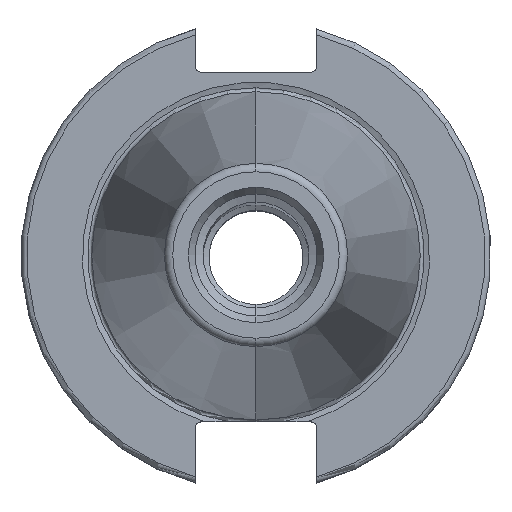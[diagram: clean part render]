
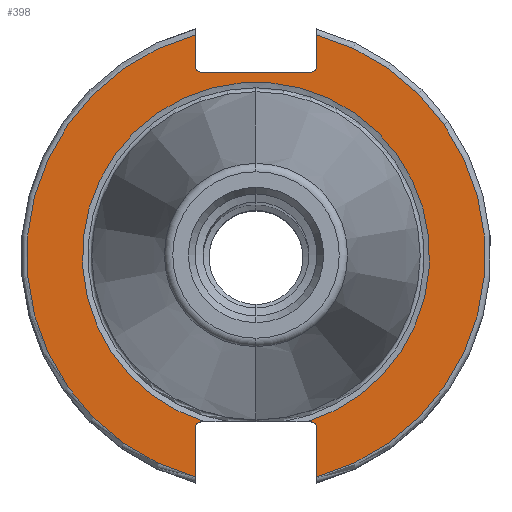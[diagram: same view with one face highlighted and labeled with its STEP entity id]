
A CAD part, top view. The second image highlights one B-rep face of the part: STEP entity #398.
In plain terms, the highlighted planar face has unit normal (0, 0, 1).
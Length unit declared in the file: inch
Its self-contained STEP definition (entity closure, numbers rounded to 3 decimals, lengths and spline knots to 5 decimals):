
#25 = CARTESIAN_POINT ( 'NONE',  ( 0.27356, -0.8825, -0.125 ) ) ;
#44 = VERTEX_POINT ( 'NONE', #318 ) ;
#47 = VERTEX_POINT ( 'NONE', #2500 ) ;
#81 = CARTESIAN_POINT ( 'NONE',  ( -0.3225, -0.9125, -0.125 ) ) ;
#99 = DIRECTION ( 'NONE',  ( 0., 1., 0. ) ) ;
#158 = VERTEX_POINT ( 'NONE', #345 ) ;
#174 = EDGE_CURVE ( 'NONE', #1312, #507, #700, .T. ) ;
#206 = DIRECTION ( 'NONE',  ( 0., -1., 0. ) ) ;
#215 = CARTESIAN_POINT ( 'NONE',  ( -0.2925, 1.0075, -0.125 ) ) ;
#288 = LINE ( 'NONE', #2164, #3453 ) ;
#294 = CARTESIAN_POINT ( 'NONE',  ( -0.3225, -1.1766, -0.125 ) ) ;
#318 = CARTESIAN_POINT ( 'NONE',  ( -0.2925, 0.9775, -0.125 ) ) ;
#338 = CARTESIAN_POINT ( 'NONE',  ( 0.2925, -0.8825, -0.125 ) ) ;
#345 = CARTESIAN_POINT ( 'NONE',  ( 0.3225, 1.1766, -0.125 ) ) ;
#367 = CARTESIAN_POINT ( 'NONE',  ( 0.2925, -0.9125, -0.125 ) ) ;
#373 = VECTOR ( 'NONE', #2525, 39.37008 ) ;
#398 = ADVANCED_FACE ( 'NONE', ( #3677 ), #527, .T. ) ;
#441 = CARTESIAN_POINT ( 'NONE',  ( 0.3225, 0., -0.125 ) ) ;
#476 = EDGE_CURVE ( 'NONE', #1312, #840, #3040, .T. ) ;
#507 = VERTEX_POINT ( 'NONE', #81 ) ;
#513 = AXIS2_PLACEMENT_3D ( 'NONE', #810, #1157, #3334 ) ;
#527 = PLANE ( 'NONE',  #3434 ) ;
#536 = ORIENTED_EDGE ( 'NONE', *, *, #2936, .T. ) ;
#560 = DIRECTION ( 'NONE',  ( 0., 0., 1. ) ) ;
#645 = AXIS2_PLACEMENT_3D ( 'NONE', #367, #1905, #1632 ) ;
#646 = CARTESIAN_POINT ( 'NONE',  ( 0.3225, 0., -0.125 ) ) ;
#690 = DIRECTION ( 'NONE',  ( 1., 0., 0. ) ) ;
#695 = ORIENTED_EDGE ( 'NONE', *, *, #1515, .F. ) ;
#700 = LINE ( 'NONE', #2469, #373 ) ;
#784 = DIRECTION ( 'NONE',  ( 0., -1., 0. ) ) ;
#810 = CARTESIAN_POINT ( 'NONE',  ( 0., 0., -0.125 ) ) ;
#815 = ORIENTED_EDGE ( 'NONE', *, *, #2412, .F. ) ;
#831 = VECTOR ( 'NONE', #1245, 39.37008 ) ;
#840 = VERTEX_POINT ( 'NONE', #2143 ) ;
#889 = VERTEX_POINT ( 'NONE', #3122 ) ;
#890 = VECTOR ( 'NONE', #1236, 39.37008 ) ;
#912 = CARTESIAN_POINT ( 'NONE',  ( 1.22, -0.8825, -0.125 ) ) ;
#971 = LINE ( 'NONE', #912, #890 ) ;
#1038 = LINE ( 'NONE', #441, #2677 ) ;
#1040 = CARTESIAN_POINT ( 'NONE',  ( 1.22, 0.9775, -0.125 ) ) ;
#1053 = VERTEX_POINT ( 'NONE', #2577 ) ;
#1060 = EDGE_CURVE ( 'NONE', #889, #1755, #3163, .T. ) ;
#1079 = AXIS2_PLACEMENT_3D ( 'NONE', #1626, #3840, #99 ) ;
#1087 = DIRECTION ( 'NONE',  ( 0., 0., -1. ) ) ;
#1098 = CARTESIAN_POINT ( 'NONE',  ( 0., 0., -0.125 ) ) ;
#1136 = CARTESIAN_POINT ( 'NONE',  ( -0.2925, -0.9125, -0.125 ) ) ;
#1157 = DIRECTION ( 'NONE',  ( 0., 0., -1. ) ) ;
#1236 = DIRECTION ( 'NONE',  ( 1., 0., 0. ) ) ;
#1245 = DIRECTION ( 'NONE',  ( 0., 1., 0. ) ) ;
#1312 = VERTEX_POINT ( 'NONE', #294 ) ;
#1416 = EDGE_CURVE ( 'NONE', #1053, #889, #971, .T. ) ;
#1437 = VERTEX_POINT ( 'NONE', #3141 ) ;
#1443 = EDGE_CURVE ( 'NONE', #1755, #3917, #2874, .T. ) ;
#1515 = EDGE_CURVE ( 'NONE', #158, #1929, #3820, .T. ) ;
#1539 = ORIENTED_EDGE ( 'NONE', *, *, #1416, .T. ) ;
#1595 = EDGE_CURVE ( 'NONE', #507, #1053, #1599, .T. ) ;
#1599 = CIRCLE ( 'NONE', #3959, 0.03 ) ;
#1626 = CARTESIAN_POINT ( 'NONE',  ( 0., 0., -0.125 ) ) ;
#1632 = DIRECTION ( 'NONE',  ( 0., -1., 0. ) ) ;
#1649 = AXIS2_PLACEMENT_3D ( 'NONE', #1098, #2296, #3557 ) ;
#1661 = DIRECTION ( 'NONE',  ( 0., -1., 0. ) ) ;
#1689 = ORIENTED_EDGE ( 'NONE', *, *, #2542, .T. ) ;
#1714 = DIRECTION ( 'NONE',  ( 0., -1., 0. ) ) ;
#1755 = VERTEX_POINT ( 'NONE', #25 ) ;
#1792 = VERTEX_POINT ( 'NONE', #2286 ) ;
#1905 = DIRECTION ( 'NONE',  ( 0., 0., -1. ) ) ;
#1929 = VERTEX_POINT ( 'NONE', #3265 ) ;
#2019 = DIRECTION ( 'NONE',  ( 0., 0., -1. ) ) ;
#2041 = LINE ( 'NONE', #1040, #2723 ) ;
#2143 = CARTESIAN_POINT ( 'NONE',  ( -0.3225, 1.1766, -0.125 ) ) ;
#2164 = CARTESIAN_POINT ( 'NONE',  ( -0.3225, 0., -0.125 ) ) ;
#2231 = CARTESIAN_POINT ( 'NONE',  ( 1.22, -0.8825, -0.125 ) ) ;
#2268 = ORIENTED_EDGE ( 'NONE', *, *, #3188, .T. ) ;
#2286 = CARTESIAN_POINT ( 'NONE',  ( 0.3225, 1.0075, -0.125 ) ) ;
#2296 = DIRECTION ( 'NONE',  ( 0., 0., -1. ) ) ;
#2350 = ORIENTED_EDGE ( 'NONE', *, *, #1595, .T. ) ;
#2357 = ORIENTED_EDGE ( 'NONE', *, *, #174, .T. ) ;
#2374 = DIRECTION ( 'NONE',  ( 0., -1., 0. ) ) ;
#2387 = ORIENTED_EDGE ( 'NONE', *, *, #4017, .T. ) ;
#2412 = EDGE_CURVE ( 'NONE', #44, #3857, #2041, .T. ) ;
#2469 = CARTESIAN_POINT ( 'NONE',  ( -0.3225, 0., -0.125 ) ) ;
#2500 = CARTESIAN_POINT ( 'NONE',  ( 0.3225, -0.9125, -0.125 ) ) ;
#2525 = DIRECTION ( 'NONE',  ( 0., 1., 0. ) ) ;
#2542 = EDGE_CURVE ( 'NONE', #44, #1437, #3963, .T. ) ;
#2577 = CARTESIAN_POINT ( 'NONE',  ( -0.2925, -0.8825, -0.125 ) ) ;
#2648 = ORIENTED_EDGE ( 'NONE', *, *, #1060, .T. ) ;
#2677 = VECTOR ( 'NONE', #1661, 39.37008 ) ;
#2682 = EDGE_CURVE ( 'NONE', #1792, #158, #3706, .T. ) ;
#2723 = VECTOR ( 'NONE', #3294, 39.37008 ) ;
#2766 = EDGE_LOOP ( 'NONE', ( #3731, #3085, #2357, #2350, #1539, #2648, #3183, #2268, #2387, #695, #3503, #536, #815, #1689 ) ) ;
#2773 = CARTESIAN_POINT ( 'NONE',  ( 0.2925, 0.9775, -0.125 ) ) ;
#2874 = LINE ( 'NONE', #2231, #3509 ) ;
#2936 = EDGE_CURVE ( 'NONE', #1792, #3857, #3391, .T. ) ;
#3015 = DIRECTION ( 'NONE',  ( 0., 0., -1. ) ) ;
#3040 = CIRCLE ( 'NONE', #1079, 1.22 ) ;
#3045 = CARTESIAN_POINT ( 'NONE',  ( 1.22, 0., -0.125 ) ) ;
#3085 = ORIENTED_EDGE ( 'NONE', *, *, #476, .F. ) ;
#3122 = CARTESIAN_POINT ( 'NONE',  ( -0.27356, -0.8825, -0.125 ) ) ;
#3141 = CARTESIAN_POINT ( 'NONE',  ( -0.3225, 1.0075, -0.125 ) ) ;
#3160 = EDGE_CURVE ( 'NONE', #840, #1437, #288, .T. ) ;
#3163 = CIRCLE ( 'NONE', #1649, 0.92393 ) ;
#3183 = ORIENTED_EDGE ( 'NONE', *, *, #1443, .T. ) ;
#3188 = EDGE_CURVE ( 'NONE', #3917, #47, #3709, .T. ) ;
#3256 = AXIS2_PLACEMENT_3D ( 'NONE', #3261, #1087, #784 ) ;
#3261 = CARTESIAN_POINT ( 'NONE',  ( 0.2925, 1.0075, -0.125 ) ) ;
#3265 = CARTESIAN_POINT ( 'NONE',  ( 0.3225, -1.1766, -0.125 ) ) ;
#3294 = DIRECTION ( 'NONE',  ( 1., 0., 0. ) ) ;
#3324 = AXIS2_PLACEMENT_3D ( 'NONE', #215, #3015, #1714 ) ;
#3334 = DIRECTION ( 'NONE',  ( 0., 1., 0. ) ) ;
#3391 = CIRCLE ( 'NONE', #3256, 0.03 ) ;
#3427 = DIRECTION ( 'NONE',  ( 0., -1., 0. ) ) ;
#3434 = AXIS2_PLACEMENT_3D ( 'NONE', #3045, #560, #206 ) ;
#3453 = VECTOR ( 'NONE', #3427, 39.37008 ) ;
#3503 = ORIENTED_EDGE ( 'NONE', *, *, #2682, .F. ) ;
#3509 = VECTOR ( 'NONE', #690, 39.37008 ) ;
#3557 = DIRECTION ( 'NONE',  ( 0., 1., 0. ) ) ;
#3677 = FACE_OUTER_BOUND ( 'NONE', #2766, .T. ) ;
#3706 = LINE ( 'NONE', #646, #831 ) ;
#3709 = CIRCLE ( 'NONE', #645, 0.03 ) ;
#3731 = ORIENTED_EDGE ( 'NONE', *, *, #3160, .F. ) ;
#3820 = CIRCLE ( 'NONE', #513, 1.22 ) ;
#3840 = DIRECTION ( 'NONE',  ( 0., 0., -1. ) ) ;
#3857 = VERTEX_POINT ( 'NONE', #2773 ) ;
#3917 = VERTEX_POINT ( 'NONE', #338 ) ;
#3959 = AXIS2_PLACEMENT_3D ( 'NONE', #1136, #2019, #2374 ) ;
#3963 = CIRCLE ( 'NONE', #3324, 0.03 ) ;
#4017 = EDGE_CURVE ( 'NONE', #47, #1929, #1038, .T. ) ;
